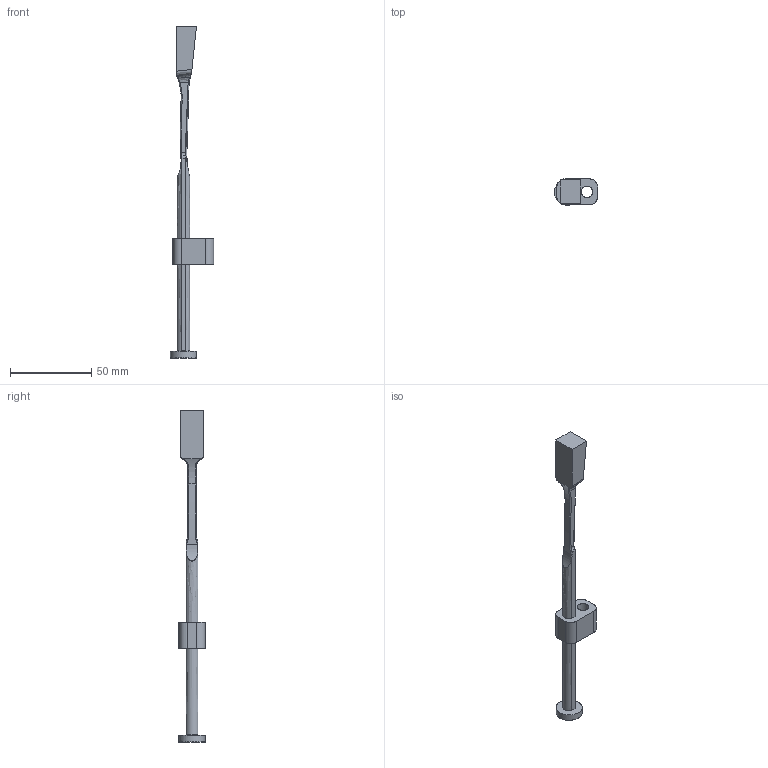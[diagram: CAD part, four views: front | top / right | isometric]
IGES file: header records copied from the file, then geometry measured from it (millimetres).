
Start section: VISI Layer Mapping Iges    VISI  0      NONE  1      WARNINGS
Global section: file name: G:\Produktkommunikation\Support\CD-Online-Katalog\3D Daten Produkte\E3200\E3200_14_12,5_200.igs; native system: VISI 20.0; preprocessor: 2.0; author: NUS; organization: Unknown; date: 20130529.090044; units: millimetre
Bounding box: 26.5 x 16 x 204 mm (x, y, z)
Surface area: 9561.2 mm2 (no closed solid volume)
Topology: 0 solids, 0 shells, 93 faces, 751 edges, 732 vertices
Faces by surface type: bspline 93
